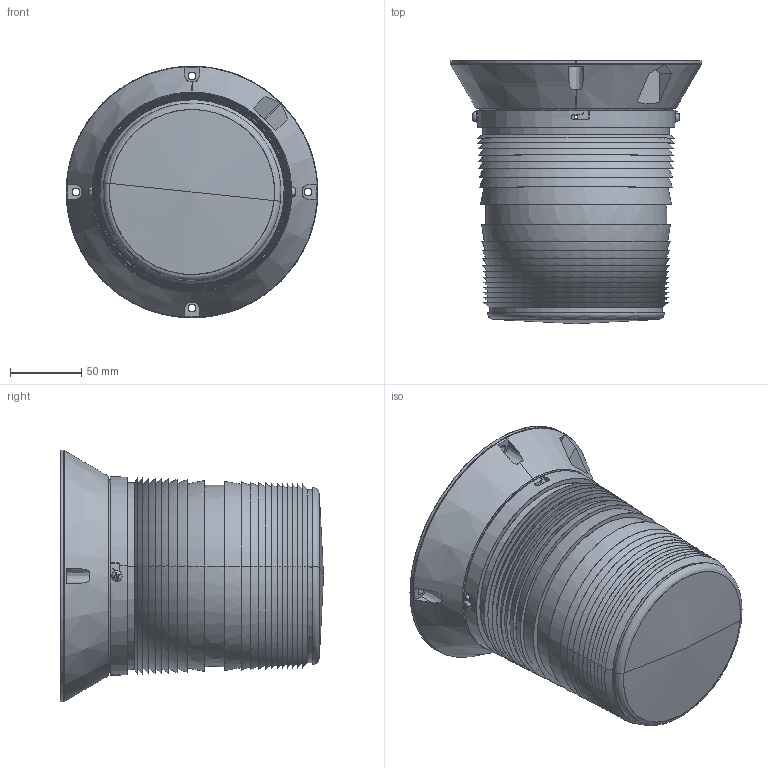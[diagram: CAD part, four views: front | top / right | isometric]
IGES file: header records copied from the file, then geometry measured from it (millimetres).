
Start section: SolidWorks IGES file using analytic representation for surfaces
Global section: file name: C:\PDMWTemp\PMF 20xx direct mounting .IGS; native system: SolidWorks 2010; preprocessor: SolidWorks 2010; author: MMark; date: 101110.144214; units: millimetre
Bounding box: 177 x 185 x 177 mm (x, y, z)
Surface area: 249372.2 mm2 (no closed solid volume)
Topology: 0 solids, 0 shells, 316 faces, 7171 edges, 7168 vertices
Faces by surface type: bspline 193, revolution 123
